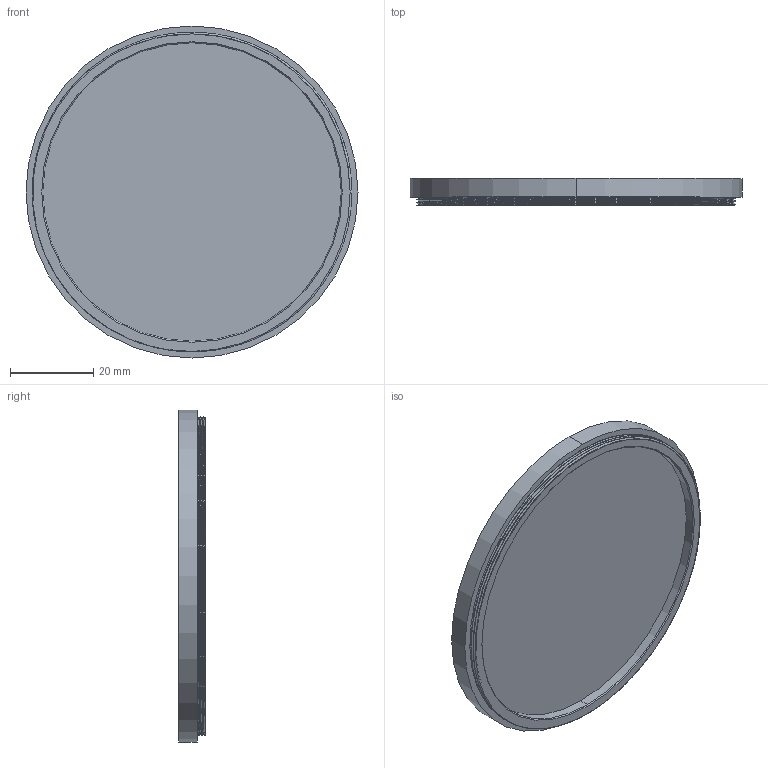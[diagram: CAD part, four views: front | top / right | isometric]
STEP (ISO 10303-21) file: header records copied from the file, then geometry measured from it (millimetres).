
FILE_DESCRIPTION (( 'STEP AP214' ), '1' );
FILE_NAME ('M77 x P0.75.STEP', '2023-01-19T08:18:22', ( '' ), ( '' ), 'SwSTEP 2.0', 'SolidWorks 2021', '' );
FILE_SCHEMA (( 'AUTOMOTIVE_DESIGN' ));
Length unit declared in the file: millimetre
Products named in the file (1): M77 x P0.75
Bounding box: 80 x 6.5 x 80 mm (x, y, z)
Volume: 5814.5 mm3; surface area: 15425.5 mm2
Topology: 3 solids, 3 shells, 45 faces, 103 edges, 68 vertices
Faces by surface type: cylinder 24, plane 11, bspline 8, cone 2
Entity records: 2882 total; most frequent: CARTESIAN_POINT 1911, ORIENTED_EDGE 206, DIRECTION 170, EDGE_CURVE 103, AXIS2_PLACEMENT_3D 72, VERTEX_POINT 68, EDGE_LOOP 53, ADVANCED_FACE 45
